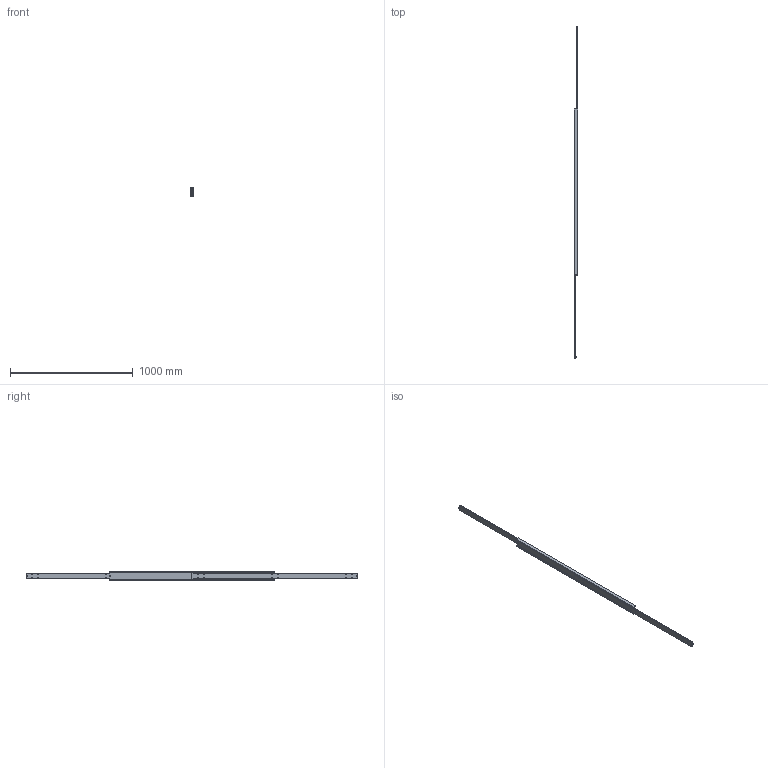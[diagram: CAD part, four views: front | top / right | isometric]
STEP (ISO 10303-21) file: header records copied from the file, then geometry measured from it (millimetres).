
FILE_DESCRIPTION(/* description */ (''),/* implementation_level */ '2;1');
FILE_NAME(/* name */ 'D:\Zeichnungen Schienen Komplett\MX-DTP70\MX-DTP70.135\MX-DTP70.135_ausgefahren.step',/* time_stamp */ '2022-08-30T10:21:41+02:00',/* author */ ('zmile'),/* organization */ (''),/* preprocessor_version */ 'ST-DEVELOPER v16.13',/* originating_system */ 'AutoCAD Mechanical',/* authorisation */ '');
FILE_SCHEMA (('AUTOMOTIVE_DESIGN { 1 0 10303 214 3 1 1 }'));
Products named in the file (1): Product
Bounding box: 32 x 2700 x 70 mm (x, y, z)
Volume: 2398947.8 mm3; surface area: 854658.9 mm2
Topology: 95 solids, 95 shells, 394 faces, 1120 edges, 744 vertices
Faces by surface type: cylinder 128, sphere 88, plane 86, bspline 86, torus 6
Full cylindrical faces by diameter (mm): 9 x88, 13 x2
Entity records: 196410 total; most frequent: CARTESIAN_POINT 187320, ORIENTED_EDGE 1692, DIRECTION 1542, EDGE_CURVE 846, VERTEX_POINT 742, EDGE_LOOP 722, AXIS2_PLACEMENT_3D 665, FACE_OUTER_BOUND 394
